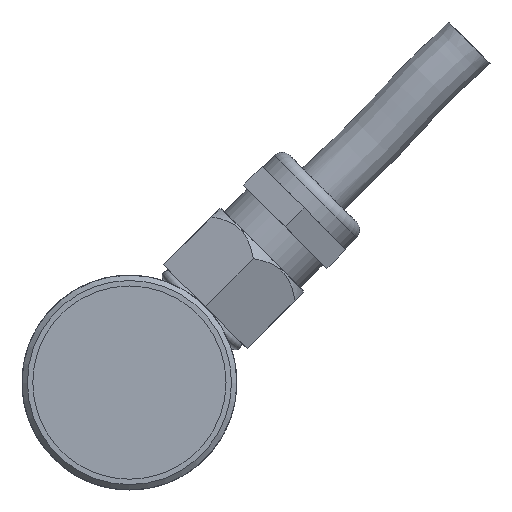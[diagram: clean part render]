
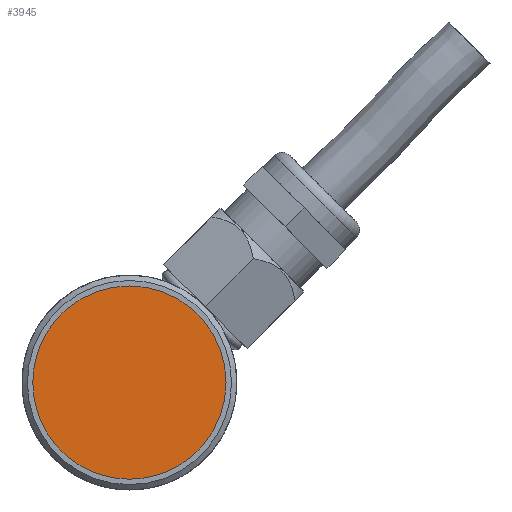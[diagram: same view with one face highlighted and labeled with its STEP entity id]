
A CAD part, left-side view. The second image highlights one B-rep face of the part: STEP entity #3945.
In plain terms, the highlighted planar face has unit normal (-1, 0, 0).
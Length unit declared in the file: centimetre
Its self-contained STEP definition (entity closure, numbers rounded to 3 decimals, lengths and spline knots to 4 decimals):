
#692=CIRCLE('',#4202,0.9);
#1385=PLANE('',#4203);
#1596=VERTEX_POINT('',#5733);
#2064=EDGE_CURVE('',#1596,#1596,#692,.T.);
#2767=ORIENTED_EDGE('',*,*,#2064,.T.);
#3473=EDGE_LOOP('',(#2767));
#3717=FACE_BOUND('',#3473,.T.);
#3945=ADVANCED_FACE('',(#3717),#1385,.F.);
#4202=AXIS2_PLACEMENT_3D('',#5732,#4718,#4719);
#4203=AXIS2_PLACEMENT_3D('',#5734,#4720,$);
#4718=DIRECTION('',(-1.,0.,0.));
#4719=DIRECTION('',(0.,0.,-0.9));
#4720=DIRECTION('',(1.,0.,0.));
#5732=CARTESIAN_POINT('',(-2.5,0.,0.));
#5733=CARTESIAN_POINT('',(-2.5,0.,-0.9));
#5734=CARTESIAN_POINT('',(-2.5,0.,0.));
